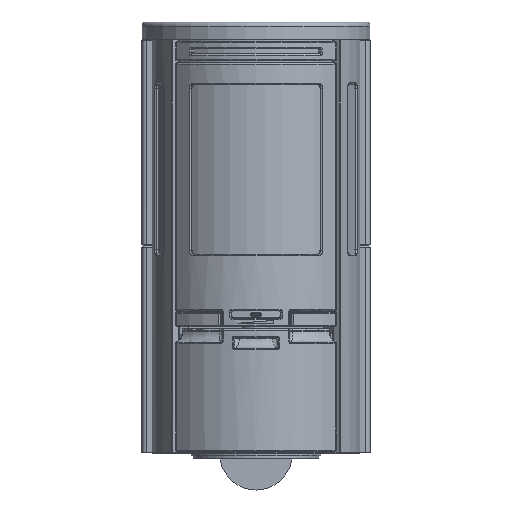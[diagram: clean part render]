
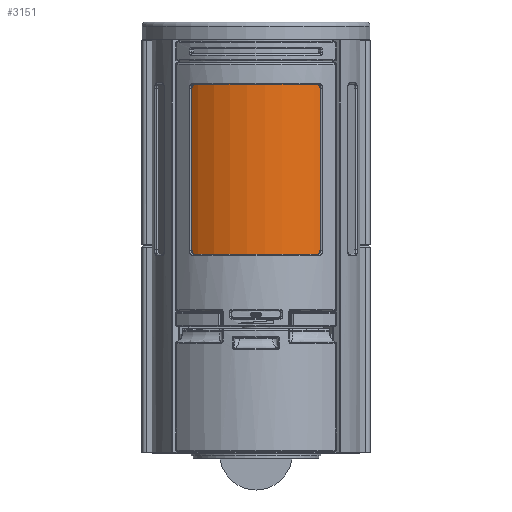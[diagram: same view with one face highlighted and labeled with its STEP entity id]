
A CAD part, front view. The second image highlights one B-rep face of the part: STEP entity #3151.
In plain terms, the highlighted cylindrical face has radius 239 mm (diameter 478 mm), a partial arc.
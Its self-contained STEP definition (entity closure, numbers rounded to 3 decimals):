
#3151 = ADVANCED_FACE( '', ( #8102 ), #8103, .T. );
#8102 = FACE_OUTER_BOUND( '', #23254, .T. );
#8103 = CYLINDRICAL_SURFACE( '', #23255, 239. );
#23254 = EDGE_LOOP( '', ( #56116, #56117, #56118, #56119 ) );
#23255 = AXIS2_PLACEMENT_3D( '', #56120, #56121, #56122 );
#56116 = ORIENTED_EDGE( '', *, *, #76219, .T. );
#56117 = ORIENTED_EDGE( '', *, *, #76570, .F. );
#56118 = ORIENTED_EDGE( '', *, *, #76571, .F. );
#56119 = ORIENTED_EDGE( '', *, *, #76572, .T. );
#56120 = CARTESIAN_POINT( '', ( 0., -288.348, 865.692 ) );
#56121 = DIRECTION( '', ( 0., 0., 1. ) );
#56122 = DIRECTION( '', ( -1., 0., 0. ) );
#76219 = EDGE_CURVE( '', #85600, #85598, #85601, .T. );
#76570 = EDGE_CURVE( '', #86176, #85598, #86177, .T. );
#76571 = EDGE_CURVE( '', #86178, #86176, #86179, .T. );
#76572 = EDGE_CURVE( '', #86178, #85600, #86180, .T. );
#85598 = VERTEX_POINT( '', #104274 );
#85600 = VERTEX_POINT( '', #104277 );
#85601 = CIRCLE( '', #104278, 239. );
#86176 = VERTEX_POINT( '', #106592 );
#86177 = LINE( '', #106593, #106594 );
#86178 = VERTEX_POINT( '', #106595 );
#86179 = CIRCLE( '', #106596, 239. );
#86180 = LINE( '', #106597, #106598 );
#104274 = CARTESIAN_POINT( '', ( 166.921, -459.399, 437. ) );
#104277 = CARTESIAN_POINT( '', ( -166.921, -459.399, 437. ) );
#104278 = AXIS2_PLACEMENT_3D( '', #129407, #129408, #129409 );
#106592 = CARTESIAN_POINT( '', ( 166.921, -459.399, 866. ) );
#106593 = CARTESIAN_POINT( '', ( 166.921, -459.399, 865.692 ) );
#106594 = VECTOR( '', #129652, 1000. );
#106595 = CARTESIAN_POINT( '', ( -166.921, -459.399, 866. ) );
#106596 = AXIS2_PLACEMENT_3D( '', #129653, #129654, #129655 );
#106597 = CARTESIAN_POINT( '', ( -166.921, -459.399, 865.692 ) );
#106598 = VECTOR( '', #129656, 1000. );
#129407 = CARTESIAN_POINT( '', ( 0., -288.348, 437. ) );
#129408 = DIRECTION( '', ( 0., 0., 1. ) );
#129409 = DIRECTION( '', ( 1., 0., 0. ) );
#129652 = DIRECTION( '', ( 0., 0., -1. ) );
#129653 = CARTESIAN_POINT( '', ( 0., -288.348, 866. ) );
#129654 = DIRECTION( '', ( 0., 0., 1. ) );
#129655 = DIRECTION( '', ( 1., 0., 0. ) );
#129656 = DIRECTION( '', ( 0., 0., -1. ) );
